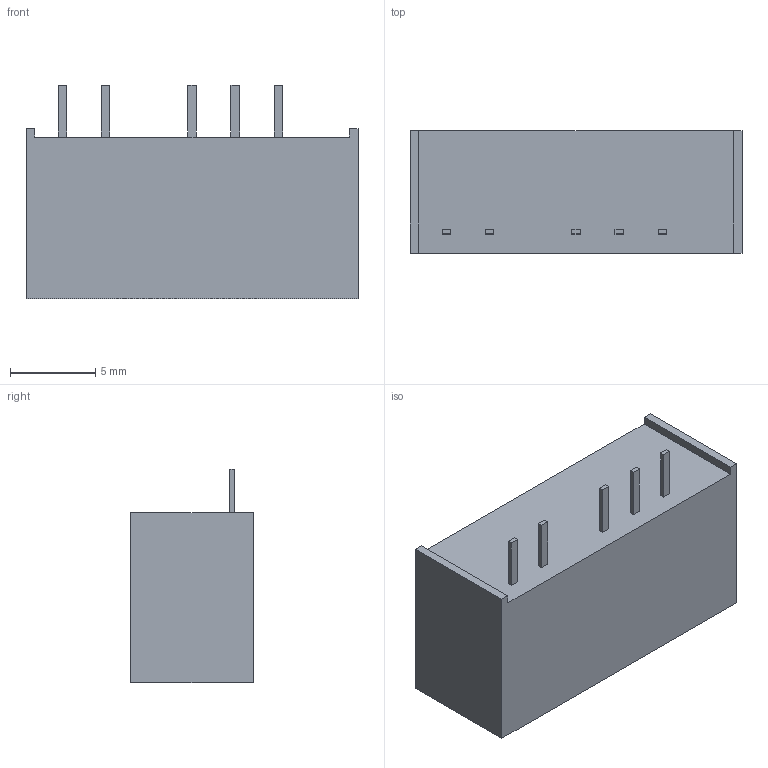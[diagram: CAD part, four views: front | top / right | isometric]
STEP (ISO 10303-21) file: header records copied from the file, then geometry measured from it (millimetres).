
FILE_DESCRIPTION(/* description */ ('Unknown'),/* implementation_level */ '2;1');
FILE_NAME(/* name */ 'IA(S)(7.2)',/* time_stamp */ '2017-11-28T13:50:36+08:00',/* author */ ('Unknown'),/* organization */ ('Unknown'),/* preprocessor_version */ 'ST-DEVELOPER v16.7',/* originating_system */ 'DEX',/* authorisation */ $);
FILE_SCHEMA (('AUTOMOTIVE_DESIGN {1 0 10303 214 3 1 1}'));
Length unit declared in the file: millimetre
Products named in the file (1): IA(S)(7.2)
Bounding box: 19.5 x 7.2 x 12.55 mm (x, y, z)
Volume: 1339.3 mm3; surface area: 826.4 mm2
Topology: 1 solids, 1 shells, 35 faces, 84 edges, 56 vertices
Faces by surface type: plane 35
Entity records: 1028 total; most frequent: CARTESIAN_POINT 176, ORIENTED_EDGE 168, DIRECTION 156, EDGE_CURVE 84, LINE 84, VECTOR 84, VERTEX_POINT 56, EDGE_LOOP 40
